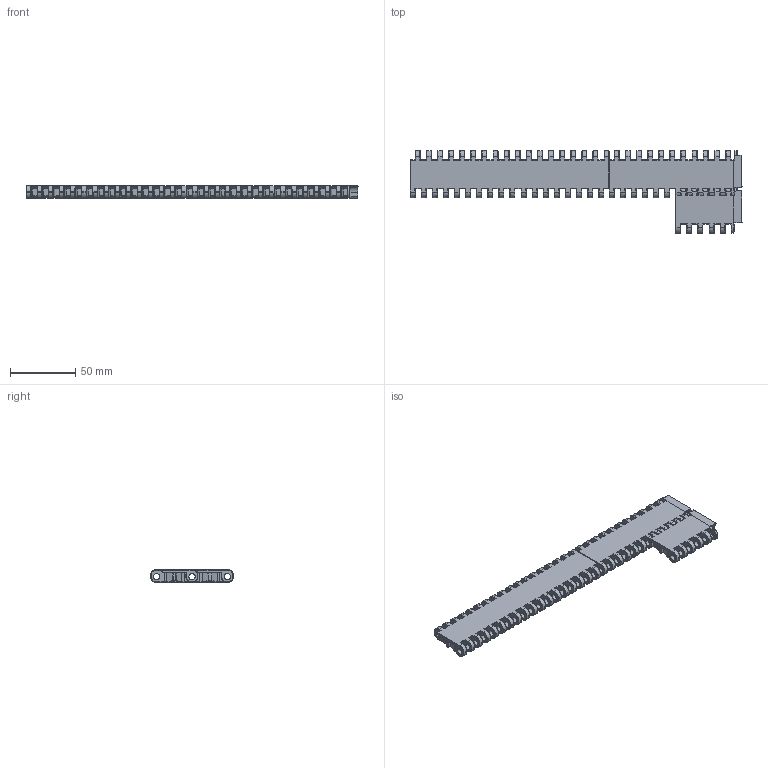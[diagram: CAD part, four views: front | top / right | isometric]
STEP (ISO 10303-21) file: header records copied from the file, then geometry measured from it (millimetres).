
FILE_DESCRIPTION(/* description */ (''),/* implementation_level */ '2;1');
FILE_NAME(/* name */ 'HS-700A-N.stp',/* time_stamp */ '2022-06-28T08:20:45+08:00',/* author */ (''),/* organization */ (''),/* preprocessor_version */ 'ST-DEVELOPER v15',/* originating_system */ 'SIEMENS PLM Software NX 8.5',/* authorisation */ '');
FILE_SCHEMA (('AP203_CONFIGURATION_CONTROLLED_3D_DESIGN_OF_MECHANICAL_PARTS_AND_ASSEMBLIES_MIM_LF { 1 0 10303 403 2 1 2}'));
Products named in the file (1): Admi2654BA8D5urx
Bounding box: 253.83 x 63.09 x 9.7 mm (x, y, z)
Volume: 42221.9 mm3; surface area: 42981.2 mm2
Topology: 3 solids, 3 shells, 3779 faces, 9366 edges, 5591 vertices
Faces by surface type: bspline 1272, extrusion 876, plane 817, cylinder 807, cone 4, sphere 3
Entity records: 162174 total; most frequent: CARTESIAN_POINT 93273, ORIENTED_EDGE 18728, EDGE_CURVE 9364, DIRECTION 8244, VERTEX_POINT 5592, VECTOR 4912, LINE 4036, EDGE_LOOP 3923
